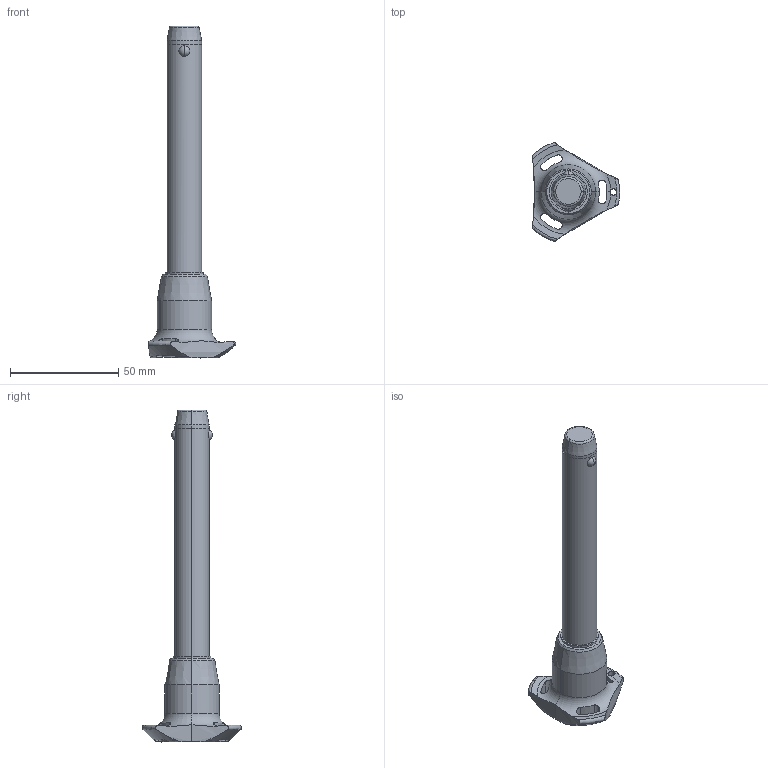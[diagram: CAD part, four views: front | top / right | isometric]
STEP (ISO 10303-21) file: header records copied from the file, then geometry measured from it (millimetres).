
FILE_DESCRIPTION (( 'STEP AP203' ), '1' );
FILE_NAME ('QR1726.M16-100-T.step', '2025-11-13T11:21:09', ( '' ), ( '' ), 'SwSTEP 2.0', 'SolidWorks 2019', '' );
FILE_SCHEMA (( 'CONFIG_CONTROL_DESIGN' ));
Length unit declared in the file: millimetre
Products named in the file (1): QR1726.M16-100-T
Bounding box: 40.5 x 45.88 x 153.7 mm (x, y, z)
Volume: 43835.8 mm3; surface area: 11619.5 mm2
Topology: 1 solids, 1 shells, 68 faces, 183 edges, 116 vertices
Faces by surface type: cylinder 32, cone 14, torus 11, sphere 6, plane 5
Entity records: 2923 total; most frequent: CARTESIAN_POINT 1170, ORIENTED_EDGE 366, DIRECTION 346, EDGE_CURVE 183, AXIS2_PLACEMENT_3D 154, VERTEX_POINT 116, CIRCLE 85, EDGE_LOOP 75
